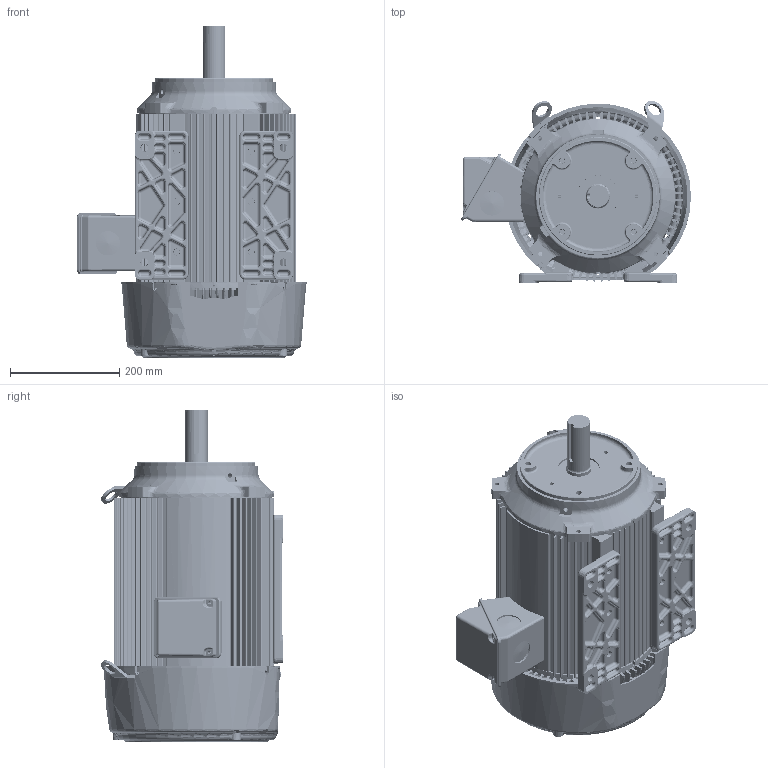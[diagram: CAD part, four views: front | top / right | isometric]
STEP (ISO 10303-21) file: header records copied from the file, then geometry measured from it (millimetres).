
FILE_DESCRIPTION((''),'2;1');
FILE_NAME('STD_CFACE_ASM','2014-07-01T',('EMD2341'),('Nidec Motor Corporation'),'PRO/ENGINEER BY PARAMETRIC TECHNOLOGY CORPORATION, 2013150','PRO/ENGINEER BY PARAMETRIC TECHNOLOGY CORPORATION, 2013150','');
FILE_SCHEMA(('CONFIG_CONTROL_DESIGN'));
Length unit declared in the file: inch
Products named in the file (16): 0375095_AF0; 0375099-BKT_AF0; 0360239_AF0; 0375600_ASM; 0364285; 0370425-BKT_AF0; 0362224_AF1; 0370426_ASM; 0172877; 0417043; 0369733; 0364229-OBB; 0361372; 0361371; 0364236; STD_CFACE_ASM
Assembly tree (16 placements, depth 3):
  STD_CFACE_ASM
    0375095_AF0
    0375600_ASM
      0375099-BKT_AF0
      0360239_AF0
    0364285
    0370426_ASM
      0370425-BKT_AF0
      0362224_AF1
    0172877
    0417043
    0369733  x2
    0364229-OBB
    0361372
    0361371
    0364236
Bounding box: 420.11 x 332.46 x 606.6 mm (x, y, z)
Volume: 7205457.5 mm3; surface area: 2347222.8 mm2
Topology: 16 solids, 16 shells, 5800 faces, 14434 edges, 8638 vertices
Faces by surface type: bspline 2042, plane 1360, cylinder 1216, cone 548, torus 421, sphere 193, extrusion 20
Entity records: 259009 total; most frequent: CARTESIAN_POINT 136536, ORIENTED_EDGE 28700, DIRECTION 20908, EDGE_CURVE 14350, VERTEX_POINT 8614, AXIS2_PLACEMENT_3D 8159, EDGE_LOOP 6014, FACE_OUTER_BOUND 5782
